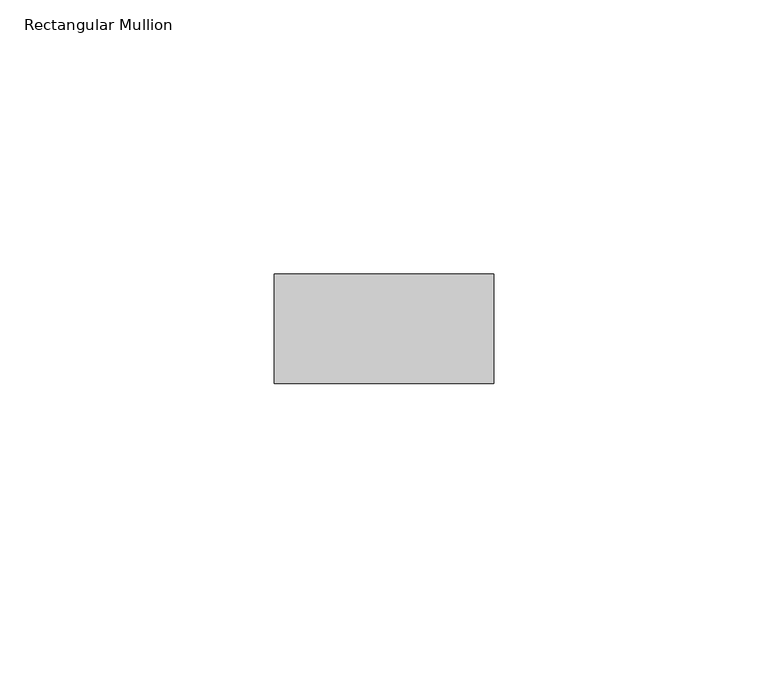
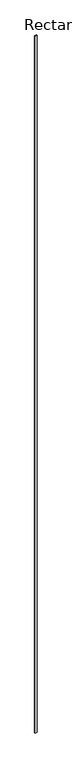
"""IFC4 building model written with IfcOpenShell, lengths in millimetres: member geometry, Rectangular Mullion : RIPA 4x2 cm."""

from ifc_helpers import new_model, si_unit, frame, origin, place, context, project, spatial, polyline, outline, extrude, source, transform, mapped, element, save


def rectangular_mullion_317d1510(model_context):
    return source(origin(), model_context, "Body", "SweptSolid", [
        extrude(outline(polyline([(20.0, 0.0), (20.0, -20.0), (-20.0, -20.0), (-20.0, 0.0), (20.0, 0.0)])), frame((0.0, 0.0, -16450.0), z_axis=(0.0, 0.0, 1.0), x_axis=(1.0, 0.0, 0.0)), (0.0, 0.0, 1.0), 16450.0),
    ])


if __name__ == "__main__":
    model = new_model("IFC4")
    model_context = context("Model", 3, world=origin())
    ifc_project = project(units=[si_unit("LENGTHUNIT", "METRE", prefix="MILLI")], contexts=[model_context])
    site = spatial("IfcSite", under=ifc_project)
    building = spatial("IfcBuilding", under=site)
    placement = place(None, origin())
    rectangular_mullion_shape = rectangular_mullion_317d1510(model_context)
    element("IfcMember", 1, ObjectType="Rectangular Mullion : RIPA 4x2 cm", at=placement, inside=building, context=model_context, shape_type="MappedRepresentation", body=[
        mapped(rectangular_mullion_shape, transform((0.0, 0.0, 0.0), x_axis=(1.0, 0.0, 0.0), y_axis=(0.0, 1.0, 0.0), z_axis=(0.0, 0.0, 1.0))),
    ])
    save(model, "model.ifc")
